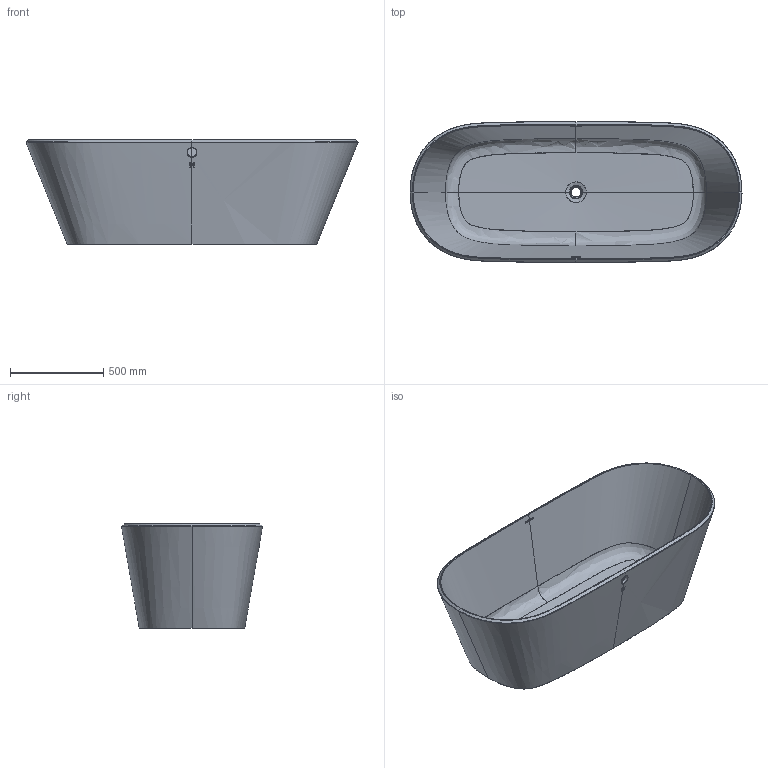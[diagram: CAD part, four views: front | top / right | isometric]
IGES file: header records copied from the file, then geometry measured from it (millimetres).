
Start section: SolidWorks IGES file using analytic representation for surfaces
Global section: file name: W:\mliu8\project\ADHOC-02291\sku_ve3-n-sw-ofseries_igs\sku_ve3-n-sw-ofseries_igs.IGS; native system: SolidWorks 2023; preprocessor: SolidWorks 2023; author: mliu8; date: 240822.165818; units: metre
Bounding box: 1777.62 x 754.62 x 558.85 mm (x, y, z)
Surface area: 5741082.4 mm2 (no closed solid volume)
Topology: 0 solids, 0 shells, 715 faces, 7643 edges, 7629 vertices
Faces by surface type: bspline 629, revolution 86
